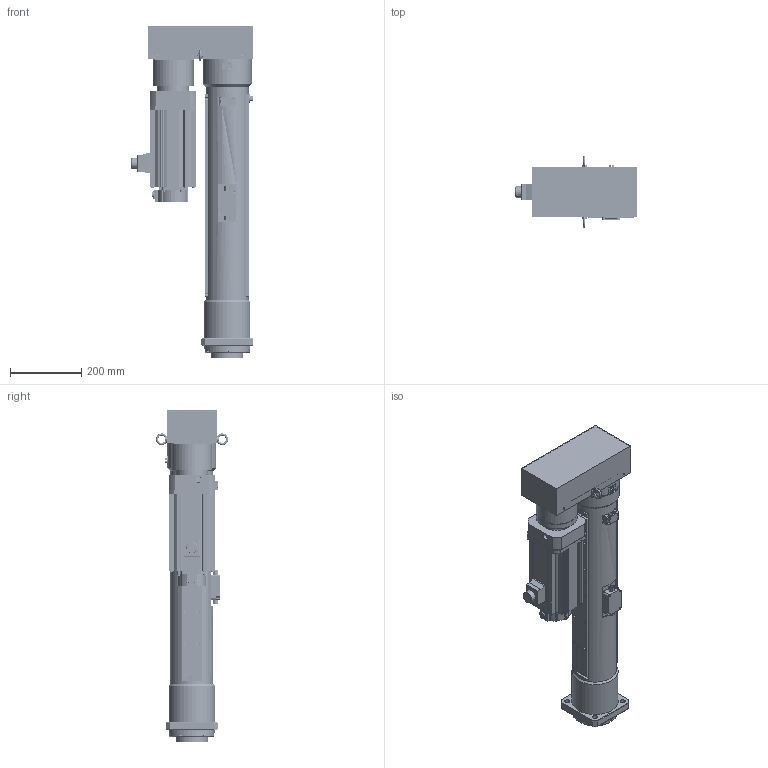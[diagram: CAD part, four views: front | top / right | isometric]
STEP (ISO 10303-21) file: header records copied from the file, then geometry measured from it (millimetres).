
FILE_DESCRIPTION( ('This file contains a STEP AP42 implementation' ,'as created by ZW3D STEP Interface translator.') ,'2;1' );
FILE_NAME( 'OACIS-DC-P060-P070-500-140-A6V200_V20.51.stp' ,'26 424.181320', (''), ('ZWCAD Software Co.'), 'Version 1.0', 'ZW3D to STEP translator', '' );
FILE_SCHEMA(('AUTOMOTIVE_DESIGN { 1 0 10303 214 1 1 1 1 }'));
Length unit declared in the file: millimetre
Products named in the file (1): 0
Bounding box: 342.5 x 202.25 x 931 mm (x, y, z)
Volume: 15692838.8 mm3; surface area: 2341765.1 mm2
Topology: 55 solids, 55 shells, 3463 faces, 8873 edges, 5678 vertices
Faces by surface type: cylinder 1728, plane 1247, cone 355, torus 101, bspline 28, sphere 4
Full cylindrical faces by diameter (mm): 1.567 x4, 2 x1, 2.459 x1, 3.3 x91, 4.2 x4, 4.3 x30, 4.5 x14, 4.917 x20, 5 x1, 5.3 x4, 5.5 x4, 6 x8, 6.5 x4, 6.647 x6, 6.8 x41, 7 x4, 8 x32, 8.4 x8, 8.5 x5, 9 x26, 9.5 x4, 9.78 x8, 10 x3, 10.1 x4, 10.106 x1, 10.2 x16, 10.5 x4, 12 x1, 14 x4, 14.8 x1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
Entity records: 127097 total; most frequent: CARTESIAN_POINT 33234, DIRECTION 19636, ORIENTED_EDGE 17524, EDGE_CURVE 8762, AXIS2_PLACEMENT_3D 7822, VERTEX_POINT 5675, CIRCLE 4367, EDGE_LOOP 4127
